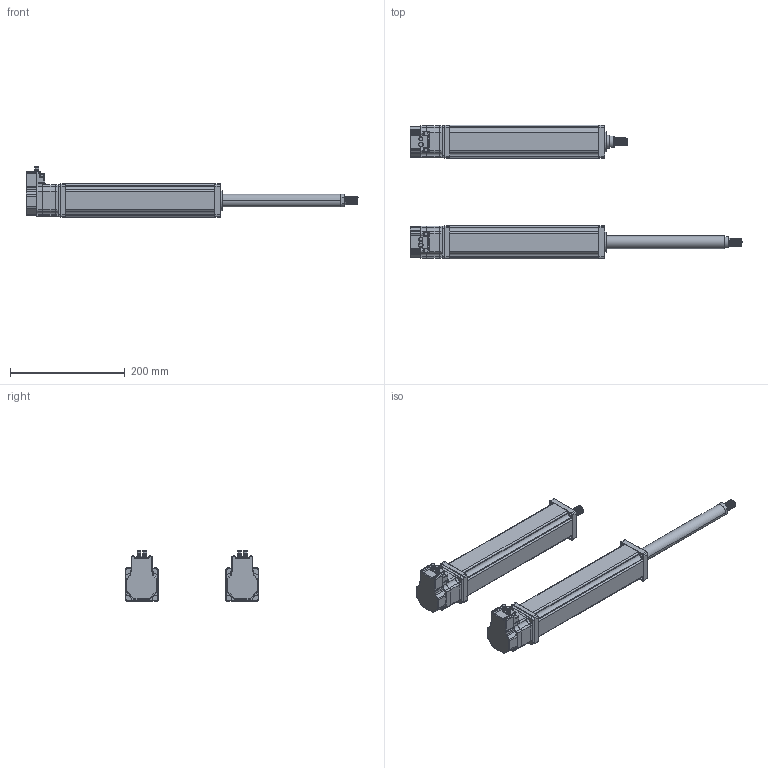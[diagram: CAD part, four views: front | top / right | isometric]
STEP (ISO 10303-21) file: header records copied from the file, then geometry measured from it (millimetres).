
FILE_DESCRIPTION(('STEP AP214'),'1');
FILE_NAME('\Tsurumi-main\3d_dad2\Servo_Motor\tmp0.STEP',' ',(' '),(' '),'XStep 1.0',' ',' ');
FILE_SCHEMA(('automotive_design'));
Length unit declared in the file: millimetre
Bounding box: 578.42 x 233.23 x 88.11 mm (x, y, z)
Volume: 2135888.9 mm3; surface area: 287132.2 mm2
Topology: 48 solids, 48 shells, 1828 faces, 5014 edges, 3286 vertices
Faces by surface type: plane 1250, cylinder 470, bspline 60, torus 36, sphere 8, cone 4
Entity records: 112259 total; most frequent: CARTESIAN_POINT 49708, ORIENTED_EDGE 9996, DIRECTION 9460, EDGE_CURVE 4998, LINE 3900, VECTOR 3900, VERTEX_POINT 3286, AXIS2_PLACEMENT_3D 2780
